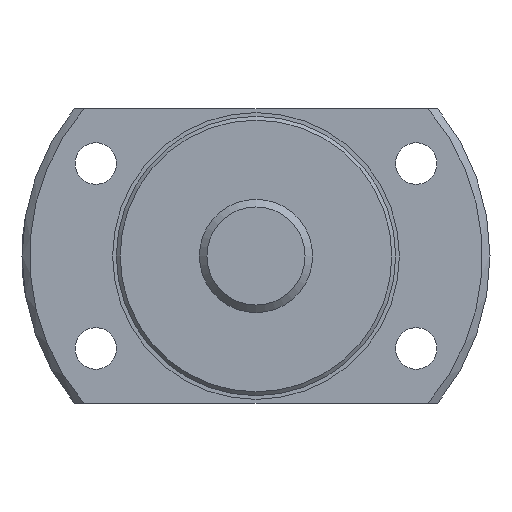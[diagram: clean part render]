
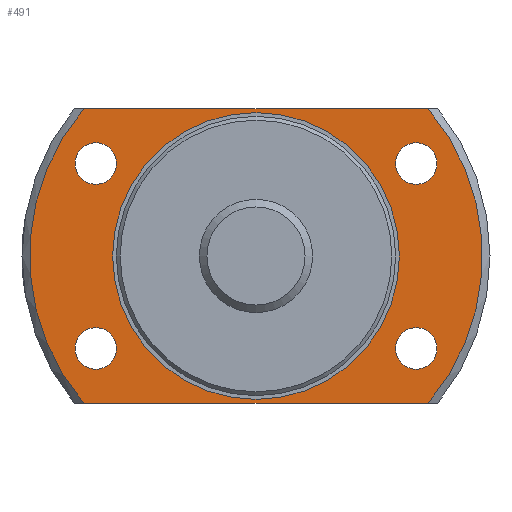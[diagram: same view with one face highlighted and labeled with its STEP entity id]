
A CAD part, left-side view. The second image highlights one B-rep face of the part: STEP entity #491.
In plain terms, the highlighted planar face has unit normal (-1, 0, 0).
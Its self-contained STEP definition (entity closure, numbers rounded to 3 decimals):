
#34=LINE('',#898,#42);
#35=LINE('',#899,#43);
#42=VECTOR('',#715,1000.);
#43=VECTOR('',#716,1000.);
#143=ORIENTED_EDGE('',*,*,#229,.T.);
#144=ORIENTED_EDGE('',*,*,#230,.F.);
#145=ORIENTED_EDGE('',*,*,#203,.F.);
#146=ORIENTED_EDGE('',*,*,#231,.F.);
#147=ORIENTED_EDGE('',*,*,#227,.F.);
#148=ORIENTED_EDGE('',*,*,#232,.T.);
#149=ORIENTED_EDGE('',*,*,#233,.T.);
#150=ORIENTED_EDGE('',*,*,#234,.T.);
#151=ORIENTED_EDGE('',*,*,#235,.T.);
#203=EDGE_CURVE('',#256,#254,#295,.T.);
#227=EDGE_CURVE('',#274,#275,#312,.T.);
#229=EDGE_CURVE('',#276,#276,#313,.T.);
#230=EDGE_CURVE('',#254,#274,#34,.T.);
#231=EDGE_CURVE('',#275,#256,#35,.T.);
#232=EDGE_CURVE('',#277,#277,#314,.T.);
#233=EDGE_CURVE('',#278,#278,#315,.T.);
#234=EDGE_CURVE('',#279,#279,#316,.T.);
#235=EDGE_CURVE('',#280,#280,#317,.T.);
#254=VERTEX_POINT('',#816);
#256=VERTEX_POINT('',#823);
#274=VERTEX_POINT('',#888);
#275=VERTEX_POINT('',#890);
#276=VERTEX_POINT('',#897);
#277=VERTEX_POINT('',#901);
#278=VERTEX_POINT('',#903);
#279=VERTEX_POINT('',#905);
#280=VERTEX_POINT('',#907);
#295=CIRCLE('',#548,30.);
#312=CIRCLE('',#579,30.);
#313=CIRCLE('',#581,19.);
#314=CIRCLE('',#582,2.75);
#315=CIRCLE('',#583,2.75);
#316=CIRCLE('',#584,2.75);
#317=CIRCLE('',#585,2.75);
#363=EDGE_LOOP('',(#143));
#364=EDGE_LOOP('',(#144,#145,#146,#147));
#365=EDGE_LOOP('',(#148));
#366=EDGE_LOOP('',(#149));
#367=EDGE_LOOP('',(#150));
#368=EDGE_LOOP('',(#151));
#431=FACE_BOUND('',#363,.T.);
#432=FACE_BOUND('',#364,.T.);
#433=FACE_BOUND('',#365,.T.);
#434=FACE_BOUND('',#366,.T.);
#435=FACE_BOUND('',#367,.T.);
#436=FACE_BOUND('',#368,.T.);
#465=PLANE('',#580);
#491=ADVANCED_FACE('',(#431,#432,#433,#434,#435,#436),#465,.T.);
#548=AXIS2_PLACEMENT_3D('',#824,#643,#644);
#579=AXIS2_PLACEMENT_3D('',#889,#709,#710);
#580=AXIS2_PLACEMENT_3D('',#895,#711,#712);
#581=AXIS2_PLACEMENT_3D('',#896,#713,#714);
#582=AXIS2_PLACEMENT_3D('',#900,#717,#718);
#583=AXIS2_PLACEMENT_3D('',#902,#719,#720);
#584=AXIS2_PLACEMENT_3D('',#904,#721,#722);
#585=AXIS2_PLACEMENT_3D('',#906,#723,#724);
#643=DIRECTION('',(1.,0.,0.));
#644=DIRECTION('',(0.,0.,-1.));
#709=DIRECTION('',(1.,0.,0.));
#710=DIRECTION('',(0.,0.,-1.));
#711=DIRECTION('',(-1.,0.,0.));
#712=DIRECTION('',(0.,0.,1.));
#713=DIRECTION('',(1.,0.,0.));
#714=DIRECTION('',(0.,0.,-1.));
#715=DIRECTION('',(0.,1.,0.));
#716=DIRECTION('',(0.,-1.,0.));
#717=DIRECTION('',(1.,0.,0.));
#718=DIRECTION('',(0.,0.,-1.));
#719=DIRECTION('',(1.,0.,0.));
#720=DIRECTION('',(0.,0.,-1.));
#721=DIRECTION('',(1.,0.,0.));
#722=DIRECTION('',(0.,0.,-1.));
#723=DIRECTION('',(1.,0.,0.));
#724=DIRECTION('',(0.,0.,-1.));
#816=CARTESIAN_POINT('',(5.5,-22.798,-19.5));
#823=CARTESIAN_POINT('',(5.5,-22.798,19.5));
#824=CARTESIAN_POINT('',(5.5,0.,0.));
#888=CARTESIAN_POINT('',(5.5,22.798,-19.5));
#889=CARTESIAN_POINT('',(5.5,0.,0.));
#890=CARTESIAN_POINT('',(5.5,22.798,19.5));
#895=CARTESIAN_POINT('',(5.5,30.,0.));
#896=CARTESIAN_POINT('',(5.5,0.,0.));
#897=CARTESIAN_POINT('',(5.5,0.,-19.));
#898=CARTESIAN_POINT('',(5.5,30.,-19.5));
#899=CARTESIAN_POINT('',(5.5,30.,19.5));
#900=CARTESIAN_POINT('',(5.5,-21.218,12.25));
#901=CARTESIAN_POINT('',(5.5,-21.218,9.5));
#902=CARTESIAN_POINT('',(5.5,-21.218,-12.25));
#903=CARTESIAN_POINT('',(5.5,-21.218,-15.));
#904=CARTESIAN_POINT('',(5.5,21.218,-12.25));
#905=CARTESIAN_POINT('',(5.5,21.218,-15.));
#906=CARTESIAN_POINT('',(5.5,21.218,12.25));
#907=CARTESIAN_POINT('',(5.5,21.218,9.5));
